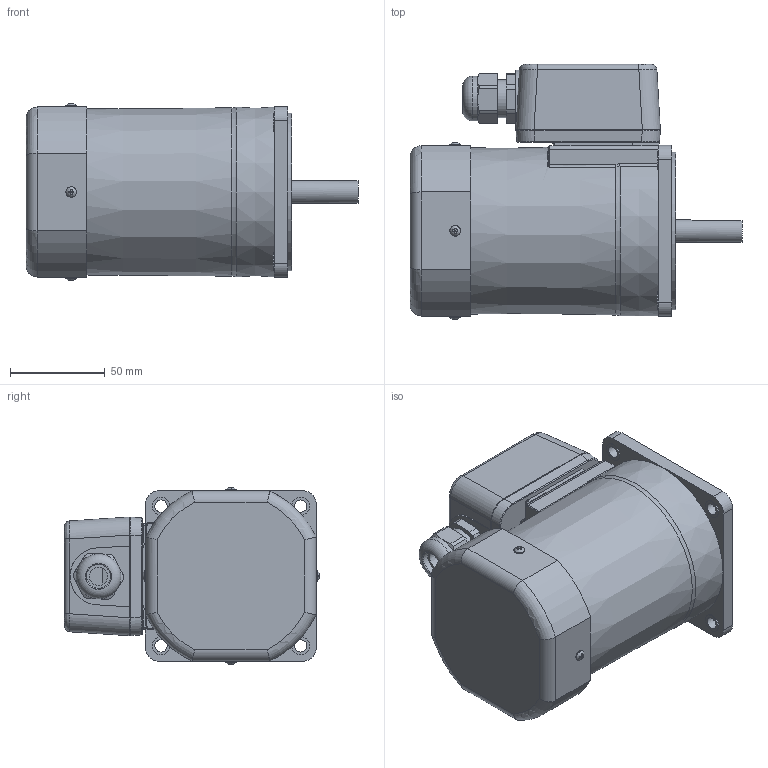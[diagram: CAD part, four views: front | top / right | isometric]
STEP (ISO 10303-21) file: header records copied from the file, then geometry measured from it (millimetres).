
FILE_DESCRIPTION((''),'2;1');
FILE_NAME('D:\STP파일\90W MOTOR\T BOX TYPE\S9I90K-T.stp','2013-05-20T18:50:22',('leebh'),(''),'Autodesk Inventor 2011','Autodesk Inventor 2011','');
FILE_SCHEMA(('AUTOMOTIVE_DESIGN { 1 0 10303 214 1 1 1 1 }'));
Length unit declared in the file: millimetre
Products named in the file (1): S9I90G-T1
Bounding box: 174.8 x 134.44 x 93.49 mm (x, y, z)
Volume: 1087376.9 mm3; surface area: 83656.1 mm2
Topology: 1 solids, 13 shells, 477 faces, 1173 edges, 747 vertices
Faces by surface type: plane 256, cylinder 125, bspline 55, torus 33, cone 8
Full cylindrical faces by diameter (mm): 2.55 x2, 3 x4, 3.5 x4, 5.6 x8, 6.3 x4, 6.5 x4, 9.5 x4, 12 x1, 12.5 x1, 15 x1, 20 x2, 21 x1, 23.6 x1, 40 x1, 83 x1
Entity records: 16053 total; most frequent: CARTESIAN_POINT 5060, ORIENTED_EDGE 2162, DIRECTION 2053, EDGE_CURVE 1081, AXIS2_PLACEMENT_3D 735, VERTEX_POINT 730, EDGE_LOOP 595, VECTOR 583
